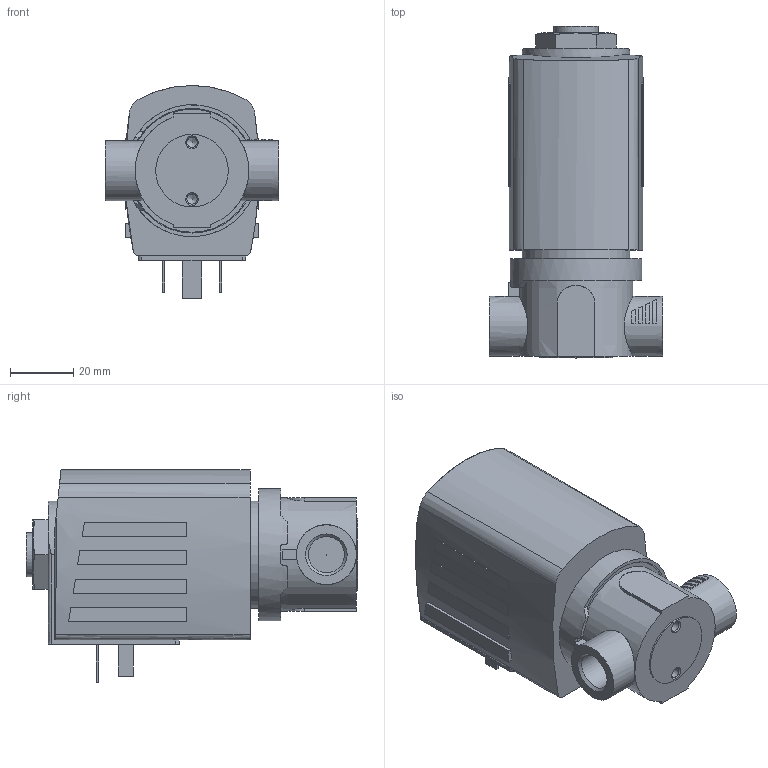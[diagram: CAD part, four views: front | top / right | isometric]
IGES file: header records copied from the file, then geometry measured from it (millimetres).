
Start section: Data from Parasolid IGES Translator 26.0.171, Copyright(c) 2006 Siemens PLM Software. All Rights Reserved.
Global section: file name: 6027-A-4-PTFE___FKM-VA-G_1_4-42-024___DC.igs; native system: By Siemens PLM Incorporated; preprocessor: XPlus GENERIC/IGES 26.0.171; author: Noname; organization: Noname; date: 20240327.203644; units: millimetre
Bounding box: 55 x 105.2 x 67.5 mm (x, y, z)
Surface area: 27135.5 mm2 (no closed solid volume)
Topology: 0 solids, 0 shells, 172 faces, 842 edges, 819 vertices
Faces by surface type: extrusion 118, revolution 54
